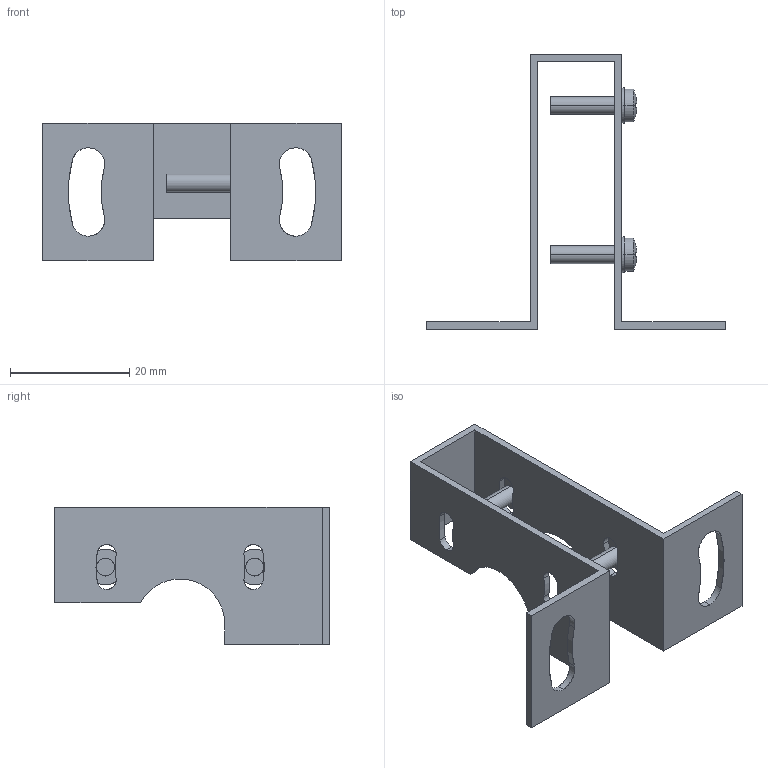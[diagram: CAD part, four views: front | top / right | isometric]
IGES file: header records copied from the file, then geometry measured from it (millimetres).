
Start section: SolidWorks IGES file using analytic representation for surfaces
Global section: file name: C:\catalog\MS-RF21-1.IGS; native system: SolidWorks 2005 by SolidWorks Corporation; preprocessor: SolidWorks 2005 by SolidWorks Corporation; author: yk0651; date: 070713.182230; units: millimetre
Bounding box: 50 x 46 x 23 mm (x, y, z)
Surface area: 5845.4 mm2 (no closed solid volume)
Topology: 0 solids, 0 shells, 98 faces, 1336 edges, 1336 vertices
Faces by surface type: bspline 50, revolution 48
